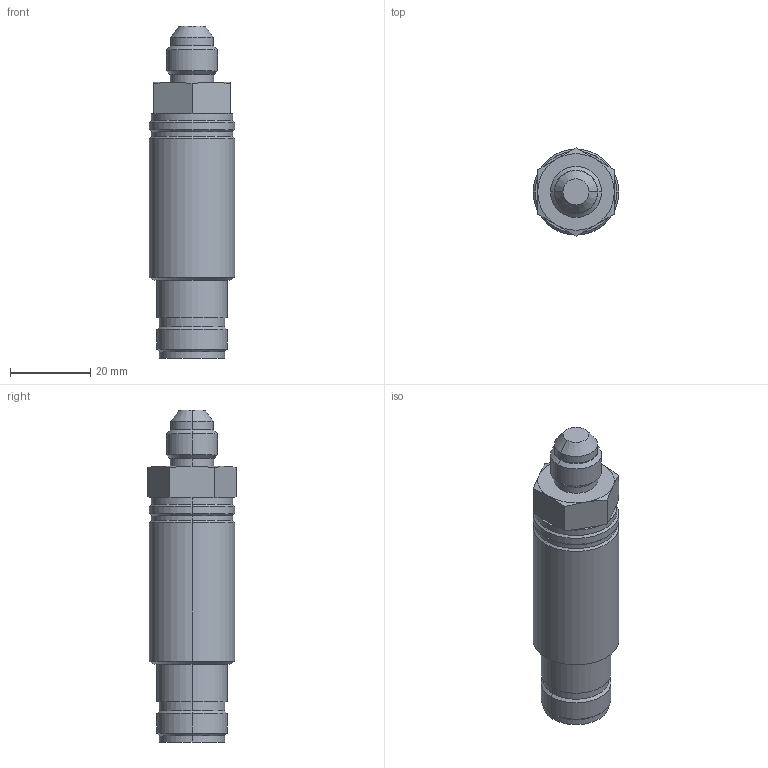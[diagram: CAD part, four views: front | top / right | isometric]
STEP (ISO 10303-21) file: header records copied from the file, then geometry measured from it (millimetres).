
FILE_DESCRIPTION (( 'STEP AP214' ), '1' );
FILE_NAME ('P8B-H TYPE.STEP', '2008-01-14T13:22:07', ( 'Authorized User' ), ( 'Precision Sensors' ), 'SwSTEP 2.0', 'SolidWorks 2006303', '' );
FILE_SCHEMA (( 'AUTOMOTIVE_DESIGN' ));
Length unit declared in the file: inch
Products named in the file (1): P8B-H TYPE
Bounding box: 21.34 x 22 x 82.62 mm (x, y, z)
Volume: 21415.8 mm3; surface area: 6034.8 mm2
Topology: 1 solids, 1 shells, 76 faces, 156 edges, 86 vertices
Faces by surface type: cone 30, cylinder 24, plane 18, torus 4
Entity records: 2041 total; most frequent: CARTESIAN_POINT 415, DIRECTION 364, ORIENTED_EDGE 312, EDGE_CURVE 156, AXIS2_PLACEMENT_3D 155, VERTEX_POINT 86, EDGE_LOOP 80, CIRCLE 78
